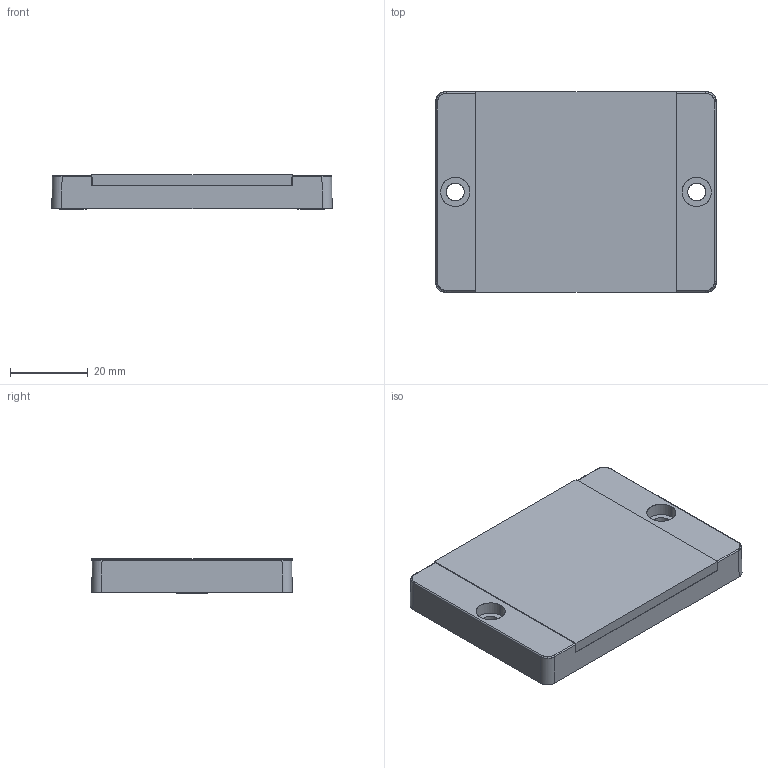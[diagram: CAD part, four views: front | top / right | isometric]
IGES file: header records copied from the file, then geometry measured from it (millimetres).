
Start section: SolidWorks IGES file using analytic representation for surfaces
Global section: file name: G:\00\0015\CAD\001541k\0015410d_ZSB.IGS; native system: SolidWorks 2010; preprocessor: SolidWorks 2010; author: isteiner; date: 121116.104203; units: millimetre
Bounding box: 72 x 51.5 x 8.9 mm (x, y, z)
Surface area: 17753.4 mm2 (no closed solid volume)
Topology: 0 solids, 0 shells, 146 faces, 1368 edges, 1368 vertices
Faces by surface type: bspline 116, revolution 30
